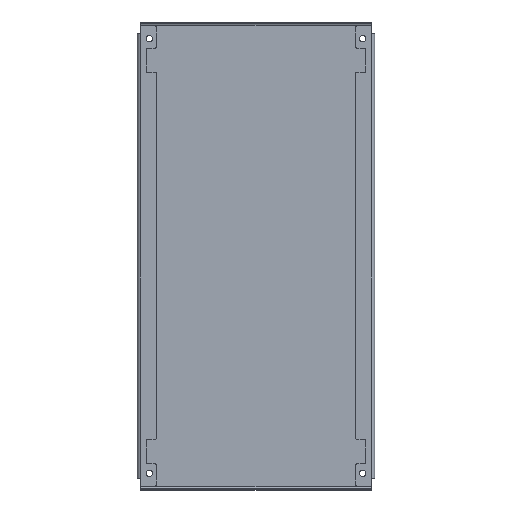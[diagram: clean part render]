
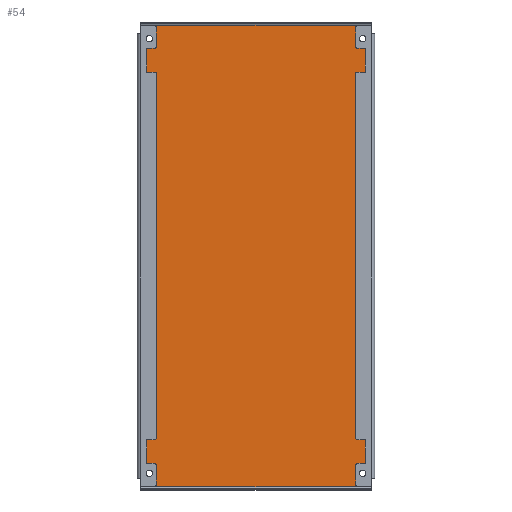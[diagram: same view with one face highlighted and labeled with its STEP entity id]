
A CAD part, top view. The second image highlights one B-rep face of the part: STEP entity #54.
In plain terms, the highlighted planar face has unit normal (0, 0, 1).
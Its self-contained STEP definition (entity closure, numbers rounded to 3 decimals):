
#54=ADVANCED_FACE('',(#186,#188,#190,#192,#194),#196,.T.);
#186=FACE_BOUND('',#187,.T.);
#187=EDGE_LOOP('',(#1129,#1130,#1131,#1132,#1133,#1134,#1135,#1136));
#188=FACE_BOUND('',#189,.T.);
#189=EDGE_LOOP('',(#1137));
#190=FACE_BOUND('',#191,.T.);
#191=EDGE_LOOP('',(#1138));
#192=FACE_BOUND('',#193,.T.);
#193=EDGE_LOOP('',(#1139));
#194=FACE_BOUND('',#195,.T.);
#195=EDGE_LOOP('',(#1140));
#196=PLANE('',#197);
#197=AXIS2_PLACEMENT_3D('',#198,#199,#200);
#198=CARTESIAN_POINT('',(0.,0.,2.));
#199=DIRECTION('',(0.,0.,1.));
#200=DIRECTION('',(1.,0.,0.));
#1129=ORIENTED_EDGE('',*,*,#1689,.T.);
#1130=ORIENTED_EDGE('',*,*,#1690,.T.);
#1131=ORIENTED_EDGE('',*,*,#1691,.T.);
#1132=ORIENTED_EDGE('',*,*,#1692,.T.);
#1133=ORIENTED_EDGE('',*,*,#1693,.T.);
#1134=ORIENTED_EDGE('',*,*,#1694,.T.);
#1135=ORIENTED_EDGE('',*,*,#1695,.T.);
#1136=ORIENTED_EDGE('',*,*,#1696,.T.);
#1137=ORIENTED_EDGE('',*,*,#1697,.T.);
#1138=ORIENTED_EDGE('',*,*,#1698,.T.);
#1139=ORIENTED_EDGE('',*,*,#1699,.T.);
#1140=ORIENTED_EDGE('',*,*,#1700,.T.);
#1689=EDGE_CURVE('',#1981,#1982,#1983,.F.);
#1690=EDGE_CURVE('',#1982,#1984,#1985,.T.);
#1691=EDGE_CURVE('',#1984,#1986,#1987,.F.);
#1692=EDGE_CURVE('',#1986,#1988,#1989,.T.);
#1693=EDGE_CURVE('',#1988,#1990,#1991,.F.);
#1694=EDGE_CURVE('',#1990,#1992,#1993,.T.);
#1695=EDGE_CURVE('',#1992,#1994,#1995,.F.);
#1696=EDGE_CURVE('',#1994,#1981,#1996,.T.);
#1697=EDGE_CURVE('',#1997,#1997,#1998,.T.);
#1698=EDGE_CURVE('',#1999,#1999,#2000,.T.);
#1699=EDGE_CURVE('',#2001,#2001,#2002,.T.);
#1700=EDGE_CURVE('',#2003,#2003,#2004,.T.);
#1981=VERTEX_POINT('',#2473);
#1982=VERTEX_POINT('',#2474);
#1983=LINE('',#2475,#2476);
#1984=VERTEX_POINT('',#2478);
#1985=LINE('',#2479,#2480);
#1986=VERTEX_POINT('',#2482);
#1987=LINE('',#2483,#2484);
#1988=VERTEX_POINT('',#2486);
#1989=LINE('',#2487,#2488);
#1990=VERTEX_POINT('',#2490);
#1991=LINE('',#2491,#2492);
#1992=VERTEX_POINT('',#2494);
#1993=LINE('',#2495,#2496);
#1994=VERTEX_POINT('',#2498);
#1995=LINE('',#2499,#2500);
#1996=LINE('',#2502,#2503);
#1997=VERTEX_POINT('',#2505);
#1998=CIRCLE('',#2506,8.5);
#1999=VERTEX_POINT('',#2510);
#2000=CIRCLE('',#2511,8.5);
#2001=VERTEX_POINT('',#2515);
#2002=CIRCLE('',#2516,8.5);
#2003=VERTEX_POINT('',#2520);
#2004=CIRCLE('',#2521,8.5);
#2473=CARTESIAN_POINT('',(4.,15.,2.));
#2474=CARTESIAN_POINT('',(4.,4.,2.));
#2475=CARTESIAN_POINT('',(4.,4.,2.));
#2476=VECTOR('',#2477,1.);
#2477=DIRECTION('',(0.,1.,0.));
#2478=CARTESIAN_POINT('',(296.,4.,2.));
#2479=CARTESIAN_POINT('',(4.,4.,2.));
#2480=VECTOR('',#2481,1.);
#2481=DIRECTION('',(1.,0.,0.));
#2482=CARTESIAN_POINT('',(296.,15.,2.));
#2483=CARTESIAN_POINT('',(296.,15.,2.));
#2484=VECTOR('',#2485,1.);
#2485=DIRECTION('',(0.,-1.,0.));
#2486=CARTESIAN_POINT('',(296.,577.,2.));
#2487=CARTESIAN_POINT('',(296.,15.,2.));
#2488=VECTOR('',#2489,1.);
#2489=DIRECTION('',(0.,1.,0.));
#2490=CARTESIAN_POINT('',(296.,588.,2.));
#2491=CARTESIAN_POINT('',(296.,588.,2.));
#2492=VECTOR('',#2493,1.);
#2493=DIRECTION('',(0.,-1.,0.));
#2494=CARTESIAN_POINT('',(4.,588.,2.));
#2495=CARTESIAN_POINT('',(296.,588.,2.));
#2496=VECTOR('',#2497,1.);
#2497=DIRECTION('',(-1.,0.,0.));
#2498=CARTESIAN_POINT('',(4.,577.,2.));
#2499=CARTESIAN_POINT('',(4.,577.,2.));
#2500=VECTOR('',#2501,1.);
#2501=DIRECTION('',(0.,1.,0.));
#2502=CARTESIAN_POINT('',(4.,577.,2.));
#2503=VECTOR('',#2504,1.);
#2504=DIRECTION('',(0.,-1.,0.));
#2505=CARTESIAN_POINT('',(23.5,21.,2.));
#2506=AXIS2_PLACEMENT_3D('',#2507,#2508,#2509);
#2507=CARTESIAN_POINT('',(15.,21.,2.));
#2508=DIRECTION('',(0.,0.,-1.));
#2509=DIRECTION('',(1.,0.,0.));
#2510=CARTESIAN_POINT('',(293.5,21.,2.));
#2511=AXIS2_PLACEMENT_3D('',#2512,#2513,#2514);
#2512=CARTESIAN_POINT('',(285.,21.,2.));
#2513=DIRECTION('',(0.,0.,-1.));
#2514=DIRECTION('',(1.,0.,0.));
#2515=CARTESIAN_POINT('',(23.5,571.,2.));
#2516=AXIS2_PLACEMENT_3D('',#2517,#2518,#2519);
#2517=CARTESIAN_POINT('',(15.,571.,2.));
#2518=DIRECTION('',(0.,0.,-1.));
#2519=DIRECTION('',(1.,0.,0.));
#2520=CARTESIAN_POINT('',(293.5,571.,2.));
#2521=AXIS2_PLACEMENT_3D('',#2522,#2523,#2524);
#2522=CARTESIAN_POINT('',(285.,571.,2.));
#2523=DIRECTION('',(0.,0.,-1.));
#2524=DIRECTION('',(1.,0.,0.));
